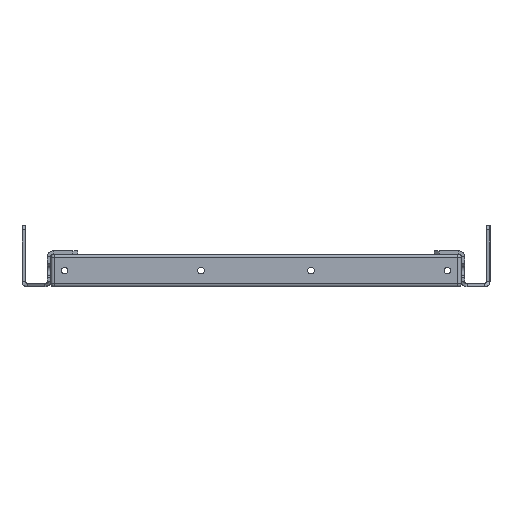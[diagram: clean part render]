
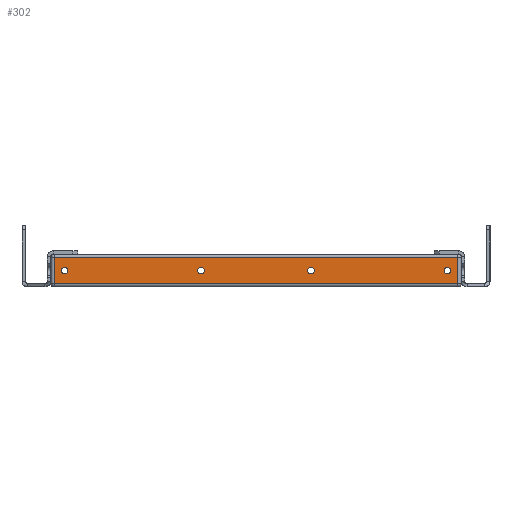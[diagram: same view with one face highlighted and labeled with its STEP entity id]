
A CAD part, left-side view. The second image highlights one B-rep face of the part: STEP entity #302.
In plain terms, the highlighted planar face has unit normal (-1, 0, 0).
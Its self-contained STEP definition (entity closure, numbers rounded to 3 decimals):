
#58 = ORIENTED_EDGE ( 'NONE', *, *, #7880, .T. ) ;
#126 = DIRECTION ( 'NONE',  ( 0., 0., 1. ) ) ;
#150 = CARTESIAN_POINT ( 'NONE',  ( -325., 123., 18. ) ) ;
#158 = VERTEX_POINT ( 'NONE', #150 ) ;
#210 = VERTEX_POINT ( 'NONE', #11879 ) ;
#302 = ADVANCED_FACE ( 'NONE', ( #6470, #5846, #3683, #6908, #8136 ), #11042, .F. ) ;
#415 = EDGE_CURVE ( 'NONE', #12459, #8542, #1555, .T. ) ;
#418 = EDGE_LOOP ( 'NONE', ( #4363, #1966 ) ) ;
#615 = CIRCLE ( 'NONE', #11826, 2. ) ;
#717 = CARTESIAN_POINT ( 'NONE',  ( -325., -33.5, 10. ) ) ;
#838 = AXIS2_PLACEMENT_3D ( 'NONE', #2295, #2333, #3304 ) ;
#877 = DIRECTION ( 'NONE',  ( 0., 0., 1. ) ) ;
#957 = CIRCLE ( 'NONE', #10154, 2. ) ;
#979 = CARTESIAN_POINT ( 'NONE',  ( -325., -125., 2. ) ) ;
#1057 = EDGE_LOOP ( 'NONE', ( #2902, #2905 ) ) ;
#1213 = DIRECTION ( 'NONE',  ( 0., 0., -1. ) ) ;
#1322 = EDGE_CURVE ( 'NONE', #5344, #5952, #5363, .T. ) ;
#1327 = DIRECTION ( 'NONE',  ( 0., 0., 1. ) ) ;
#1555 = CIRCLE ( 'NONE', #11720, 2. ) ;
#1607 = DIRECTION ( 'NONE',  ( 0., 0., 1. ) ) ;
#1655 = ORIENTED_EDGE ( 'NONE', *, *, #5227, .T. ) ;
#1729 = CARTESIAN_POINT ( 'NONE',  ( -325., -123., 20. ) ) ;
#1787 = CIRCLE ( 'NONE', #2303, 2. ) ;
#1941 = ORIENTED_EDGE ( 'NONE', *, *, #415, .F. ) ;
#1966 = ORIENTED_EDGE ( 'NONE', *, *, #11408, .T. ) ;
#2295 = CARTESIAN_POINT ( 'NONE',  ( -325., -116.5, 10. ) ) ;
#2303 = AXIS2_PLACEMENT_3D ( 'NONE', #717, #5465, #7419 ) ;
#2320 = AXIS2_PLACEMENT_3D ( 'NONE', #11608, #9632, #877 ) ;
#2333 = DIRECTION ( 'NONE',  ( 1., 0., 0. ) ) ;
#2385 = CARTESIAN_POINT ( 'NONE',  ( -325., 33.5, 10. ) ) ;
#2406 = LINE ( 'NONE', #12218, #7306 ) ;
#2828 = VERTEX_POINT ( 'NONE', #12661 ) ;
#2902 = ORIENTED_EDGE ( 'NONE', *, *, #4191, .F. ) ;
#2905 = ORIENTED_EDGE ( 'NONE', *, *, #4767, .F. ) ;
#2918 = DIRECTION ( 'NONE',  ( 0., -1., 0. ) ) ;
#3228 = DIRECTION ( 'NONE',  ( 0., 0., 1. ) ) ;
#3304 = DIRECTION ( 'NONE',  ( 0., 0., 1. ) ) ;
#3683 = FACE_OUTER_BOUND ( 'NONE', #8381, .T. ) ;
#3707 = VECTOR ( 'NONE', #1607, 1000. ) ;
#3796 = LINE ( 'NONE', #6418, #9940 ) ;
#3919 = AXIS2_PLACEMENT_3D ( 'NONE', #9123, #8246, #3228 ) ;
#3930 = EDGE_LOOP ( 'NONE', ( #11914, #1941 ) ) ;
#4088 = DIRECTION ( 'NONE',  ( -1., 0., 0. ) ) ;
#4119 = CARTESIAN_POINT ( 'NONE',  ( -325., -123., 2. ) ) ;
#4191 = EDGE_CURVE ( 'NONE', #10379, #8606, #6654, .T. ) ;
#4336 = CARTESIAN_POINT ( 'NONE',  ( -325., 116.5, 12. ) ) ;
#4363 = ORIENTED_EDGE ( 'NONE', *, *, #10254, .T. ) ;
#4375 = VERTEX_POINT ( 'NONE', #8184 ) ;
#4525 = ORIENTED_EDGE ( 'NONE', *, *, #9861, .T. ) ;
#4529 = CIRCLE ( 'NONE', #838, 2. ) ;
#4767 = EDGE_CURVE ( 'NONE', #8606, #10379, #10938, .T. ) ;
#5227 = EDGE_CURVE ( 'NONE', #5952, #210, #6338, .T. ) ;
#5344 = VERTEX_POINT ( 'NONE', #8843 ) ;
#5363 = LINE ( 'NONE', #979, #10119 ) ;
#5465 = DIRECTION ( 'NONE',  ( 1., 0., 0. ) ) ;
#5468 = DIRECTION ( 'NONE',  ( 1., 0., 0. ) ) ;
#5722 = ORIENTED_EDGE ( 'NONE', *, *, #11487, .T. ) ;
#5846 = FACE_BOUND ( 'NONE', #1057, .T. ) ;
#5952 = VERTEX_POINT ( 'NONE', #4119 ) ;
#6221 = DIRECTION ( 'NONE',  ( 1., 0., 0. ) ) ;
#6338 = LINE ( 'NONE', #1729, #3707 ) ;
#6418 = CARTESIAN_POINT ( 'NONE',  ( -325., 123., 20. ) ) ;
#6429 = DIRECTION ( 'NONE',  ( -1., 0., 0. ) ) ;
#6470 = FACE_BOUND ( 'NONE', #3930, .T. ) ;
#6654 = CIRCLE ( 'NONE', #6750, 2. ) ;
#6750 = AXIS2_PLACEMENT_3D ( 'NONE', #10806, #4088, #126 ) ;
#6908 = FACE_BOUND ( 'NONE', #418, .T. ) ;
#7306 = VECTOR ( 'NONE', #8294, 1000. ) ;
#7419 = DIRECTION ( 'NONE',  ( 0., 0., 1. ) ) ;
#7880 = EDGE_CURVE ( 'NONE', #2828, #11127, #957, .T. ) ;
#8102 = DIRECTION ( 'NONE',  ( 0., 0., 1. ) ) ;
#8136 = FACE_BOUND ( 'NONE', #11288, .T. ) ;
#8184 = CARTESIAN_POINT ( 'NONE',  ( -325., -116.5, 8. ) ) ;
#8192 = EDGE_CURVE ( 'NONE', #8542, #12459, #12594, .T. ) ;
#8246 = DIRECTION ( 'NONE',  ( -1., 0., 0. ) ) ;
#8294 = DIRECTION ( 'NONE',  ( 0., 1., 0. ) ) ;
#8326 = DIRECTION ( 'NONE',  ( 0., 0., -1. ) ) ;
#8367 = DIRECTION ( 'NONE',  ( 0., 0., 1. ) ) ;
#8381 = EDGE_LOOP ( 'NONE', ( #1655, #8935, #4525, #12144 ) ) ;
#8542 = VERTEX_POINT ( 'NONE', #11813 ) ;
#8606 = VERTEX_POINT ( 'NONE', #9070 ) ;
#8843 = CARTESIAN_POINT ( 'NONE',  ( -325., 123., 2. ) ) ;
#8935 = ORIENTED_EDGE ( 'NONE', *, *, #10925, .T. ) ;
#9070 = CARTESIAN_POINT ( 'NONE',  ( -325., 116.5, 8. ) ) ;
#9123 = CARTESIAN_POINT ( 'NONE',  ( -325., 33.5, 10. ) ) ;
#9130 = CARTESIAN_POINT ( 'NONE',  ( -325., -125., 20. ) ) ;
#9480 = CARTESIAN_POINT ( 'NONE',  ( -325., -33.5, 10. ) ) ;
#9632 = DIRECTION ( 'NONE',  ( -1., 0., 0. ) ) ;
#9846 = CARTESIAN_POINT ( 'NONE',  ( -325., -33.5, 8. ) ) ;
#9861 = EDGE_CURVE ( 'NONE', #158, #5344, #3796, .T. ) ;
#9940 = VECTOR ( 'NONE', #8326, 1000. ) ;
#9998 = DIRECTION ( 'NONE',  ( 1., 0., 0. ) ) ;
#10013 = VERTEX_POINT ( 'NONE', #10638 ) ;
#10119 = VECTOR ( 'NONE', #2918, 1000. ) ;
#10127 = CARTESIAN_POINT ( 'NONE',  ( -325., -116.5, 10. ) ) ;
#10154 = AXIS2_PLACEMENT_3D ( 'NONE', #9480, #5468, #8367 ) ;
#10254 = EDGE_CURVE ( 'NONE', #10013, #4375, #615, .T. ) ;
#10379 = VERTEX_POINT ( 'NONE', #4336 ) ;
#10638 = CARTESIAN_POINT ( 'NONE',  ( -325., -116.5, 12. ) ) ;
#10806 = CARTESIAN_POINT ( 'NONE',  ( -325., 116.5, 10. ) ) ;
#10925 = EDGE_CURVE ( 'NONE', #210, #158, #2406, .T. ) ;
#10938 = CIRCLE ( 'NONE', #2320, 2. ) ;
#10973 = CARTESIAN_POINT ( 'NONE',  ( -325., 33.5, 8. ) ) ;
#11042 = PLANE ( 'NONE',  #12564 ) ;
#11127 = VERTEX_POINT ( 'NONE', #9846 ) ;
#11288 = EDGE_LOOP ( 'NONE', ( #58, #5722 ) ) ;
#11408 = EDGE_CURVE ( 'NONE', #4375, #10013, #4529, .T. ) ;
#11487 = EDGE_CURVE ( 'NONE', #11127, #2828, #1787, .T. ) ;
#11608 = CARTESIAN_POINT ( 'NONE',  ( -325., 116.5, 10. ) ) ;
#11720 = AXIS2_PLACEMENT_3D ( 'NONE', #2385, #6429, #1327 ) ;
#11813 = CARTESIAN_POINT ( 'NONE',  ( -325., 33.5, 12. ) ) ;
#11826 = AXIS2_PLACEMENT_3D ( 'NONE', #10127, #9998, #8102 ) ;
#11879 = CARTESIAN_POINT ( 'NONE',  ( -325., -123., 18. ) ) ;
#11914 = ORIENTED_EDGE ( 'NONE', *, *, #8192, .F. ) ;
#12144 = ORIENTED_EDGE ( 'NONE', *, *, #1322, .T. ) ;
#12218 = CARTESIAN_POINT ( 'NONE',  ( -325., 125., 18. ) ) ;
#12459 = VERTEX_POINT ( 'NONE', #10973 ) ;
#12564 = AXIS2_PLACEMENT_3D ( 'NONE', #9130, #6221, #1213 ) ;
#12594 = CIRCLE ( 'NONE', #3919, 2. ) ;
#12661 = CARTESIAN_POINT ( 'NONE',  ( -325., -33.5, 12. ) ) ;
